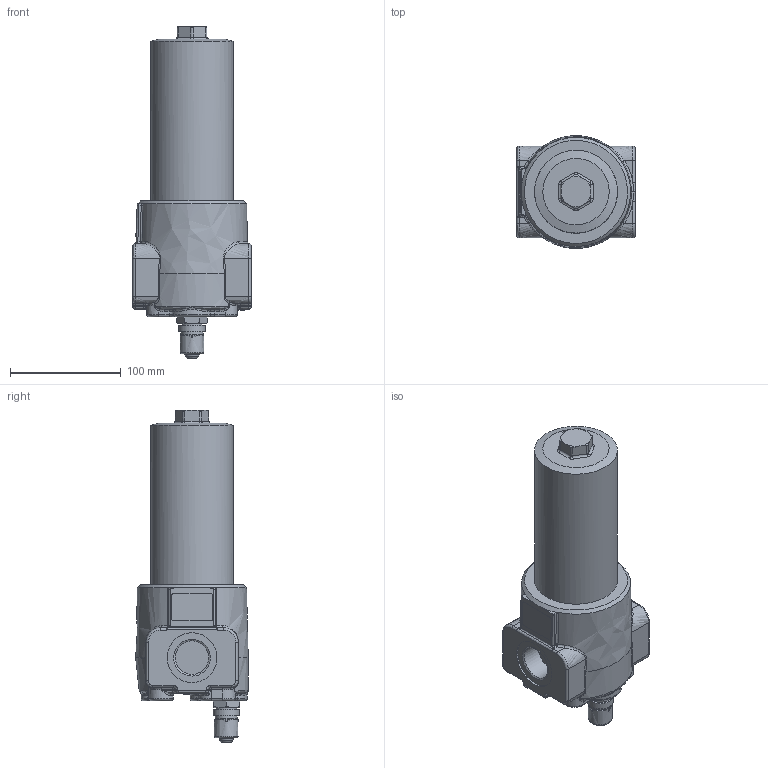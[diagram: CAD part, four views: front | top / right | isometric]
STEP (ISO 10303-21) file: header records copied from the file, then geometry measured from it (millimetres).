
FILE_DESCRIPTION((''),'2;1');
FILE_NAME('U:\Users\i.maeder\34150600_HD152-168OD1_exp.stp', '2016-07-08T14:29:16',('User'),('SDRC'),'I-DEAS Master Series 9','UNIX', 'Yes');
FILE_SCHEMA(('AUTOMOTIVE_DESIGN { 1 0 10303 214 1 1 1 1 }'));
Length unit declared in the file: millimetre
Products named in the file (1): 34150600
Bounding box: 107 x 101.89 x 300.3 mm (x, y, z)
Volume: 1527928.5 mm3; surface area: 97047.9 mm2
Topology: 1 solids, 1 shells, 403 faces, 955 edges, 567 vertices
Faces by surface type: bspline 403
Entity records: 15244 total; most frequent: CARTESIAN_POINT 9899, ORIENTED_EDGE 1886, EDGE_CURVE 943, VERTEX_POINT 560, B_SPLINE_CURVE_WITH_KNOTS 437, EDGE_LOOP 421, FACE_OUTER_BOUND 403, ADVANCED_FACE 403
